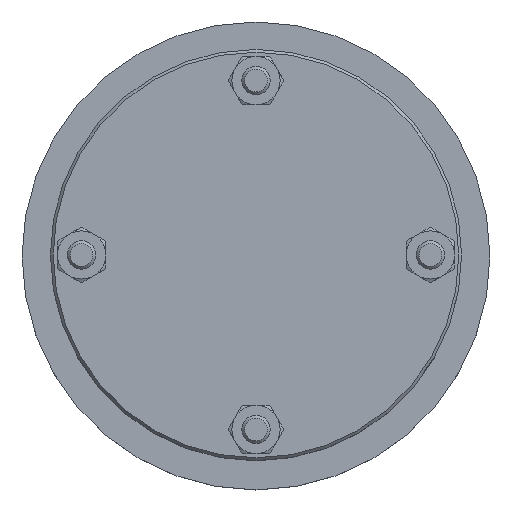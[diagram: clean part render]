
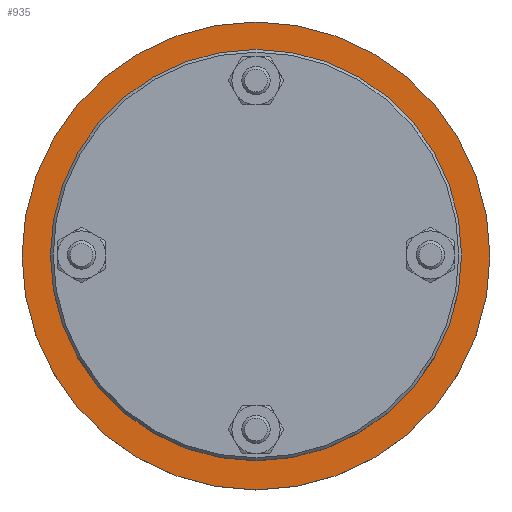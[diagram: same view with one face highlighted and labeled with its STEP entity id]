
A CAD part, top view. The second image highlights one B-rep face of the part: STEP entity #935.
In plain terms, the highlighted planar face has unit normal (0, 0, 1).
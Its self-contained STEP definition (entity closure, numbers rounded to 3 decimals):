
#935=ADVANCED_FACE('',(#3471,#3473,#3475,#3477,#3479,#3481),#3483,.T.);
#3471=FACE_BOUND('',#3472,.T.);
#3472=EDGE_LOOP('',(#5427));
#3473=FACE_BOUND('',#3474,.T.);
#3474=EDGE_LOOP('',(#5428));
#3475=FACE_BOUND('',#3476,.T.);
#3476=EDGE_LOOP('',(#5429));
#3477=FACE_BOUND('',#3478,.T.);
#3478=EDGE_LOOP('',(#5430));
#3479=FACE_BOUND('',#3480,.T.);
#3480=EDGE_LOOP('',(#5431));
#3481=FACE_BOUND('',#3482,.T.);
#3482=EDGE_LOOP('',(#5432));
#3483=PLANE('',#3484);
#3484=AXIS2_PLACEMENT_3D('',#3485,#3486,#3487);
#3485=CARTESIAN_POINT('',(0.,0.,20.));
#3486=DIRECTION('',(0.,0.,1.));
#3487=DIRECTION('',(1.,0.,0.));
#5427=ORIENTED_EDGE('',*,*,#6473,.T.);
#5428=ORIENTED_EDGE('',*,*,#6447,.F.);
#5429=ORIENTED_EDGE('',*,*,#6474,.T.);
#5430=ORIENTED_EDGE('',*,*,#6475,.T.);
#5431=ORIENTED_EDGE('',*,*,#6476,.T.);
#5432=ORIENTED_EDGE('',*,*,#6477,.T.);
#6447=EDGE_CURVE('',#7199,#7199,#7200,.T.);
#6473=EDGE_CURVE('',#7227,#7227,#7228,.T.);
#6474=EDGE_CURVE('',#7229,#7229,#7230,.T.);
#6475=EDGE_CURVE('',#7231,#7231,#7232,.T.);
#6476=EDGE_CURVE('',#7233,#7233,#7234,.T.);
#6477=EDGE_CURVE('',#7235,#7235,#7236,.T.);
#7199=VERTEX_POINT('',#11111);
#7200=CIRCLE('',#11112,48.);
#7227=VERTEX_POINT('',#11217);
#7228=CIRCLE('',#11218,82.5);
#7229=VERTEX_POINT('',#11222);
#7230=CIRCLE('',#11223,9.);
#7231=VERTEX_POINT('',#11227);
#7232=CIRCLE('',#11228,9.);
#7233=VERTEX_POINT('',#11232);
#7234=CIRCLE('',#11233,9.);
#7235=VERTEX_POINT('',#11237);
#7236=CIRCLE('',#11238,9.);
#11111=CARTESIAN_POINT('',(48.,0.,20.));
#11112=AXIS2_PLACEMENT_3D('',#11113,#11114,#11115);
#11113=CARTESIAN_POINT('',(0.,0.,20.));
#11114=DIRECTION('',(0.,0.,1.));
#11115=DIRECTION('',(1.,0.,0.));
#11217=CARTESIAN_POINT('',(82.5,0.,20.));
#11218=AXIS2_PLACEMENT_3D('',#11219,#11220,#11221);
#11219=CARTESIAN_POINT('',(0.,0.,20.));
#11220=DIRECTION('',(0.,0.,1.));
#11221=DIRECTION('',(1.,0.,0.));
#11222=CARTESIAN_POINT('',(53.194,-44.194,20.));
#11223=AXIS2_PLACEMENT_3D('',#11224,#11225,#11226);
#11224=CARTESIAN_POINT('',(44.194,-44.194,20.));
#11225=DIRECTION('',(0.,0.,-1.));
#11226=DIRECTION('',(1.,0.,0.));
#11227=CARTESIAN_POINT('',(-44.194,-53.194,20.));
#11228=AXIS2_PLACEMENT_3D('',#11229,#11230,#11231);
#11229=CARTESIAN_POINT('',(-44.194,-44.194,20.));
#11230=DIRECTION('',(0.,0.,-1.));
#11231=DIRECTION('',(0.,-1.,0.));
#11232=CARTESIAN_POINT('',(-53.194,44.194,20.));
#11233=AXIS2_PLACEMENT_3D('',#11234,#11235,#11236);
#11234=CARTESIAN_POINT('',(-44.194,44.194,20.));
#11235=DIRECTION('',(0.,0.,-1.));
#11236=DIRECTION('',(-1.,0.,0.));
#11237=CARTESIAN_POINT('',(44.194,53.194,20.));
#11238=AXIS2_PLACEMENT_3D('',#11239,#11240,#11241);
#11239=CARTESIAN_POINT('',(44.194,44.194,20.));
#11240=DIRECTION('',(0.,0.,-1.));
#11241=DIRECTION('',(0.,1.,0.));
